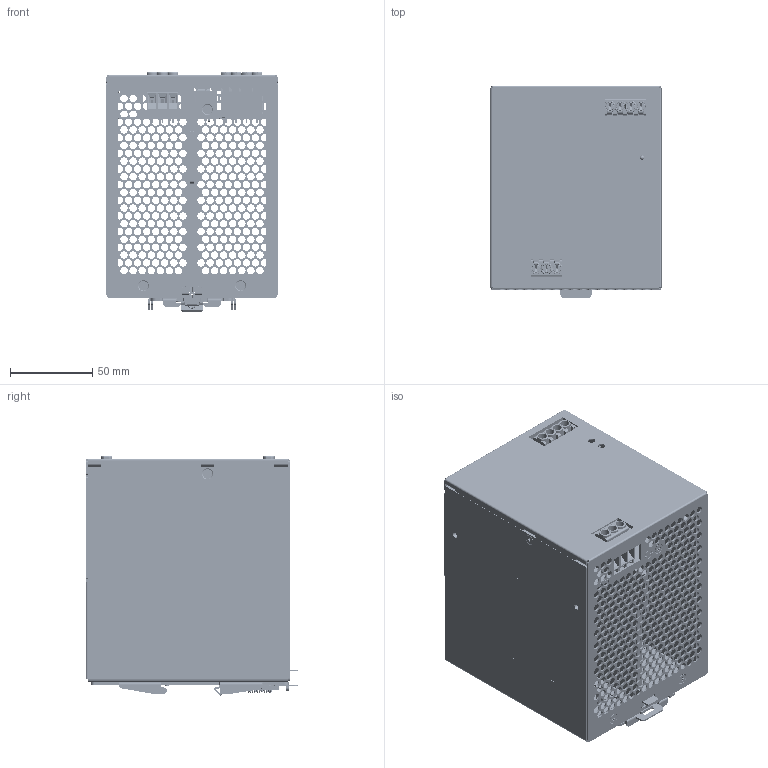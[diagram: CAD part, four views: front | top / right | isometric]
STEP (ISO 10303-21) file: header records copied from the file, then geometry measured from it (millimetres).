
FILE_DESCRIPTION((''),'2;1');
FILE_NAME('DRF-960W_NEW-FTF_ASM_ASM_2_ASM__ASM','2025-01-22T13:27:28',('JOSH.LEE'),(''),'CREO PARAMETRIC BY PTC INC, 2023294','CREO PARAMETRIC BY PTC INC, 2023294','');
FILE_SCHEMA(('AUTOMOTIVE_DESIGN { 1 0 10303 214 1 1 1 1 }'));
Products named in the file (59): DRF-960W_NEW-FTF_COVER-1_2_1_1; DRF-960W_NEW-FTF_COVER-1_2_2_1; DRF-960W_NEW-FTF_COVER-1_2_ASM__ASM; DRF-960W_INSULATOR-TOP-OUTPUT_1; DRF-960W_INSULATOR-TOP-INPUT_2_; STANDOFF_6-32_1_1; STANDOFF_M3_1_1; DRF-960W_NEW-FTF_COVER-TOP_ASM__ASM; DRF-960W_NEW-FTF-CHASSIS_T1_1_1; CHASSIS-STANDOFF_M35_1_1; CHASSIS-STANDOFF_M35_FLAT_1_1; DRF-960W_INSULATOR-T1_2_1; DRF-960W_NEW-CHASSIS_OUTPUT_ASM_ASM; DRF-960W_NEW-FTF_CHASSIS_L2_1_1; DRF-960W_INSULATOR-L2_2_1; DRF-960W_COPPER_CHASSIS-INPUT_1; DRF-960W_NEW-CHASSIS_INPUT_ASM__ASM; DRF-960W_NEW-FTF_FRONT_COVER_2_; DRF-960W_INSUALTOR_FRONT-COVER_; DRF-960W_NEW-FTF_FRONT_COVER_AS_ASM; NEW-348-1_1_1; NEW-348-2_1_1; NEW-348-3_1_1; NEW-348_ASM_1_ASM_1_ASM; NEW-348-SMALL_1_1; NEW-348-SPRING_1_1; NEW-348-BRACKET_20240923_1_1; DRF-960W_NEW-DIN-BRACKET_ASM_1__ASM; SCREW-FLAT-6-32_1_1; SCREW-FLAT-M3-5_1_1; SCREW-FLAT-M3-11_1_1; SCREW-FLAT-M3-7_1_1; DRF-960W_NEW-FTF_CASE-ASM_ASM_2_ASM; DRF-960W_PWB-L2_1_1; DRF-960W_SMALL-PWB-L2_1_1; L2-SMALL---_1_1; KP03_1_1_1; KP03_1_2_1; KP03_1_3_1; KP03_1_4_1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
Assembly tree (83 placements, depth 6):
  DRF-960W_NEW-FTF_ASM_ASM_2_ASM__ASM
    DRF-960W_NEW-FTF_CASE-ASM_ASM_2_ASM
      DRF-960W_NEW-FTF_COVER-TOP_ASM__ASM
        DRF-960W_NEW-FTF_COVER-1_2_ASM__ASM
          DRF-960W_NEW-FTF_COVER-1_2_1_1
          DRF-960W_NEW-FTF_COVER-1_2_2_1
        DRF-960W_INSULATOR-TOP-OUTPUT_1
        DRF-960W_INSULATOR-TOP-INPUT_2_
        STANDOFF_6-32_1_1  x6
        STANDOFF_M3_1_1  x4
      DRF-960W_NEW-CHASSIS_OUTPUT_ASM_ASM
        DRF-960W_NEW-FTF-CHASSIS_T1_1_1
        CHASSIS-STANDOFF_M35_1_1
        CHASSIS-STANDOFF_M35_FLAT_1_1
        DRF-960W_INSULATOR-T1_2_1
      DRF-960W_NEW-CHASSIS_INPUT_ASM__ASM
        DRF-960W_NEW-FTF_CHASSIS_L2_1_1
        CHASSIS-STANDOFF_M35_1_1  x2
        DRF-960W_INSULATOR-L2_2_1
        DRF-960W_COPPER_CHASSIS-INPUT_1
      DRF-960W_NEW-FTF_FRONT_COVER_AS_ASM
        DRF-960W_NEW-FTF_FRONT_COVER_2_
        DRF-960W_INSUALTOR_FRONT-COVER_
      DRF-960W_NEW-DIN-BRACKET_ASM_1__ASM
        NEW-348_ASM_1_ASM_1_ASM
          NEW-348-1_1_1
          NEW-348-2_1_1
          NEW-348-3_1_1
        NEW-348-SMALL_1_1
        NEW-348-SPRING_1_1
        NEW-348-BRACKET_20240923_1_1
      SCREW-FLAT-6-32_1_1  x6
      SCREW-FLAT-M3-5_1_1  x6
      SCREW-FLAT-M3-11_1_1  x5
      SCREW-FLAT-M3-7_1_1  x2
    DRF-960W_NEW-FTF_PWB_ASM_ASM_1__ASM
      DRF-960W_PWB_L2_ASM_ASM_1_ASM_1_ASM
        DRF-960W_PWB-L2_1_1
        DRF-960W_PWB-L2-SMALL_ASM_1_ASM_ASM
          DRF-960W_SMALL-PWB-L2_1_1
          L2-SMALL---_1_1
          KP03_1_ASM_1_ASM
            KP03_1_1_1
            KP03_1_2_1
            KP03_1_3_1
            KP03_1_4_1
      DRF-960W_PWB_T1_ASM_ASM_1_ASM_1_ASM
        DRF-960W_PWB-T1_1_1
        DRF-960W_SMALL-PWB-T1_1_1
        KP04_1_ASM_1_ASM
          KP04_1_1_1
          KP04_1_2_1
          KP04_1_3_1
          KP04_1_4_1
          KP04_1_5_1
        TM901_ASM_1_ASM_1_ASM
          3352090900-354054_ASM_1_ASM_1_ASM
            3352090900-354064_1_1
        LED_1_1
        VR_1_1
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Bounding box: 103.8 x 128.8 x 145.34 mm (x, y, z)
Volume: 253962.1 mm3; surface area: 495081.8 mm2
Topology: 66 solids, 66 shells, 6955 faces, 19249 edges, 12439 vertices
Faces by surface type: plane 3452, cylinder 3050, cone 218, torus 90, bspline 90, extrusion 39, sphere 16
Entity records: 262133 total; most frequent: CARTESIAN_POINT 59483, DIRECTION 36060, ORIENTED_EDGE 35678, EDGE_CURVE 17839, AXIS2_PLACEMENT_3D 12577, VERTEX_POINT 11536, VECTOR 10906, LINE 10867
